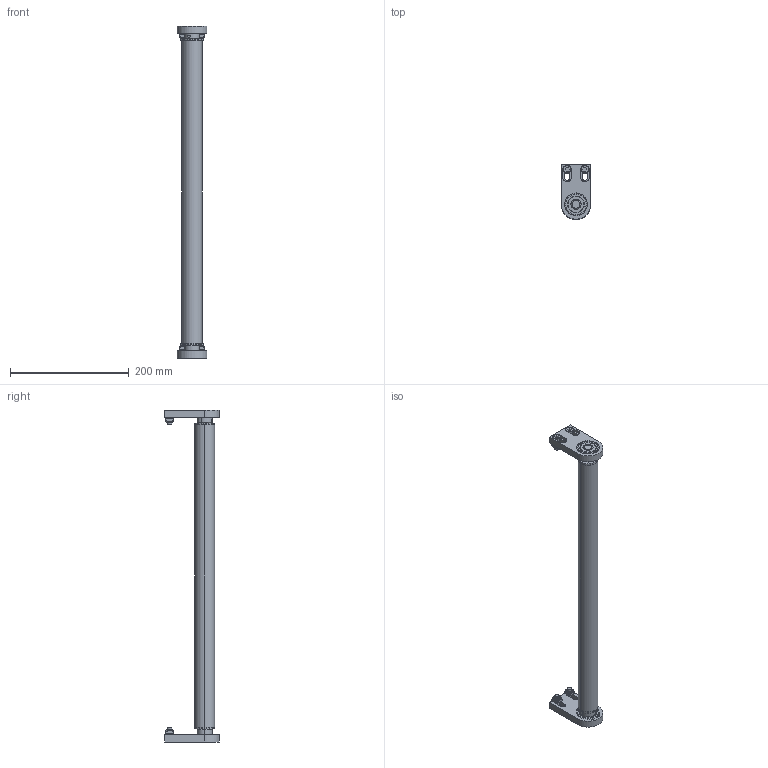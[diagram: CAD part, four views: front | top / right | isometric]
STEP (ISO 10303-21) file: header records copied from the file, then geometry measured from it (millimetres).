
FILE_DESCRIPTION (( 'STEP AP203' ), '1' );
FILE_NAME ('084.095.KSS.500.STEP', '2019-07-30T08:39:37', ( '' ), ( '' ), 'SwSTEP 2.0', 'SolidWorks 2018', '' );
FILE_SCHEMA (( 'CONFIG_CONTROL_DESIGN' ));
Length unit declared in the file: millimetre
Products named in the file (8): 084.802.028; 084.302.000 DADI ALUSIC 13x13-1_084.302.004; 084.301.000 VITI ALUSIC_084.301.003; 084.802.013-2; 084.802.029-509; 084.802.017_084.802.017; 084.802.014; 084.095.KSS.500
Assembly tree (17 placements, depth 2):
  084.095.KSS.500
    084.802.029-509
    084.301.000 VITI ALUSIC_084.301.003  x4
    084.302.000 DADI ALUSIC 13x13-1_084.302.004  x4
    084.802.017_084.802.017  x2
    084.802.028  x2
    084.802.014  x2
    084.802.013-2  x2
Bounding box: 50 x 92.5 x 559 mm (x, y, z)
Volume: 263010.9 mm3; surface area: 175065.9 mm2
Topology: 19 solids, 21 shells, 384 faces, 910 edges, 582 vertices
Faces by surface type: plane 142, cylinder 134, torus 52, cone 32, bspline 16, sphere 8
Entity records: 5980 total; most frequent: CARTESIAN_POINT 1263, DIRECTION 820, ORIENTED_EDGE 700, EDGE_CURVE 350, AXIS2_PLACEMENT_3D 339, VERTEX_POINT 224, EDGE_LOOP 182, CIRCLE 170
